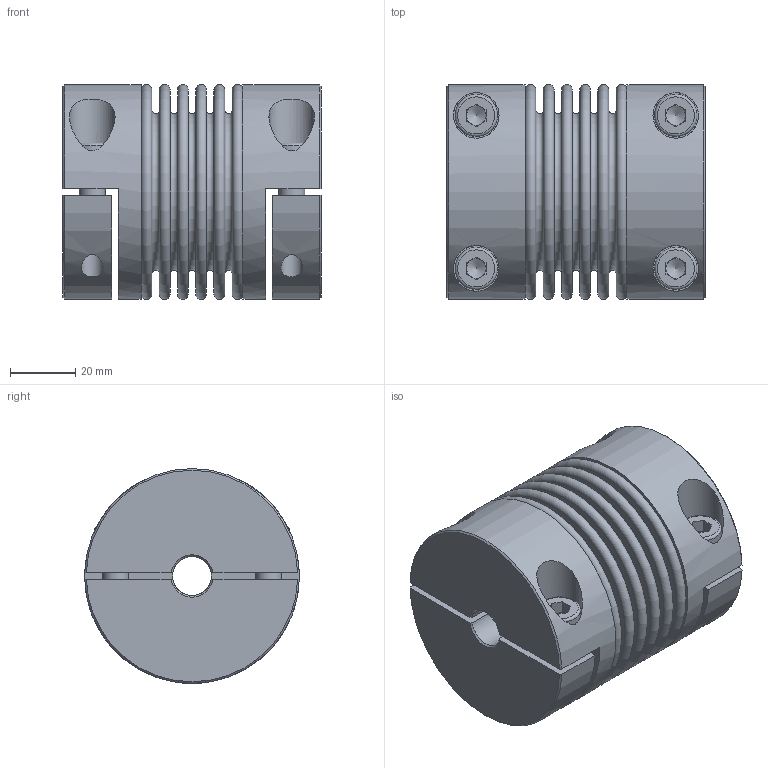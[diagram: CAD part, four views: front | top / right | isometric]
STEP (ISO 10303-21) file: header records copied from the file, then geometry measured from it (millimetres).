
FILE_DESCRIPTION( ( 'Unknown' ), '1' );
FILE_NAME( 'C:/Users/skarpstein/Desktop/KB4HC/KB4HC-60-77.stp', 'Unknown', ( 'Unknown' ), ( 'Unknown' ), 'PSStep 16.0.42', 'Unknown', ' ' );
FILE_SCHEMA( ( 'AUTOMOTIVE_DESIGN { 1 0 10303 214 1 1 1 1 }' ) );
Length unit declared in the file: millimetre
Products named in the file (5): Assem1; KN4HC-60; Socket Head Cap Screw_DIN_DIN 912 M8 x 25 --- 25N_2; BL60_Standard_0
Assembly tree (9 placements, depth 2):
  Assem1
    KN4HC-60  x2
    KN4HC-60  x2
    Socket Head Cap Screw_DIN_DIN 912 M8 x 25 --- 25N_2  x4
    BL60_Standard_0
Bounding box: 79.3 x 66 x 66 mm (x, y, z)
Volume: 154837.4 mm3; surface area: 89215 mm2
Topology: 9 solids, 9 shells, 188 faces, 387 edges, 247 vertices
Faces by surface type: plane 108, cylinder 32, torus 32, cone 16
Full cylindrical faces by diameter (mm): 6.647 x4, 8 x4, 8.5 x4, 12 x2, 13 x4, 14 x4, 56.3 x2, 57.3 x2, 66 x2
Entity records: 3582 total; most frequent: CARTESIAN_POINT 719, DIRECTION 438, ORIENTED_EDGE 282, AXIS2_PLACEMENT_3D 199, EDGE_LOOP 180, EDGE_CURVE 141, FACE_OUTER_BOUND 140, VERTEX_POINT 130
